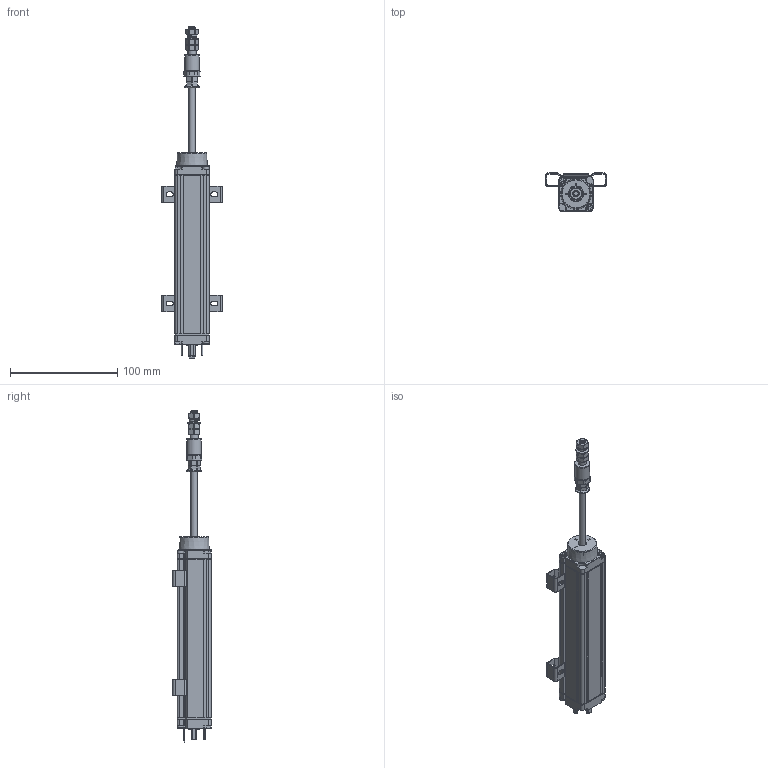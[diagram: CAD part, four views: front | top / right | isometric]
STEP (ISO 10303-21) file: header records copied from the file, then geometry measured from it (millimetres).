
FILE_DESCRIPTION(/* description */ (''),/* implementation_level */ '2;1');
FILE_NAME(/* name */ 'KTC1-100.stp',/* time_stamp */ '2020-11-19T07:55:25+08:00',/* author */ (''),/* organization */ (''),/* preprocessor_version */ 'ST-DEVELOPER v16',/* originating_system */ 'SIEMENS PLM Software NX 10.0',/* authorisation */ '');
FILE_SCHEMA (('AUTOMOTIVE_DESIGN { 1 0 10303 214 3 1 1 1 }'));
Products named in the file (1): Admi5F302720vra0
Bounding box: 56.4 x 35.65 x 309.94 mm (x, y, z)
Volume: 69364.4 mm3; surface area: 77354.8 mm2
Topology: 26 solids, 26 shells, 1118 faces, 3039 edges, 1969 vertices
Faces by surface type: plane 622, cylinder 373, torus 67, sphere 20, cone 18, bspline 18
Full cylindrical faces by diameter (mm): 2.5 x6, 2.525 x2, 3 x4, 3.2 x1, 3.5 x4, 3.7 x2, 4 x1, 4.9 x22, 5.9 x4, 6 x1, 7.5 x1, 7.986 x1, 9.986 x1, 10 x2, 12 x1, 13.8 x2, 14 x1, 14.973 x1, 16.471 x1
Entity records: 56721 total; most frequent: CARTESIAN_POINT 29418, ORIENTED_EDGE 5724, DIRECTION 5417, EDGE_CURVE 2862, VERTEX_POINT 1895, LINE 1823, VECTOR 1823, AXIS2_PLACEMENT_3D 1797
